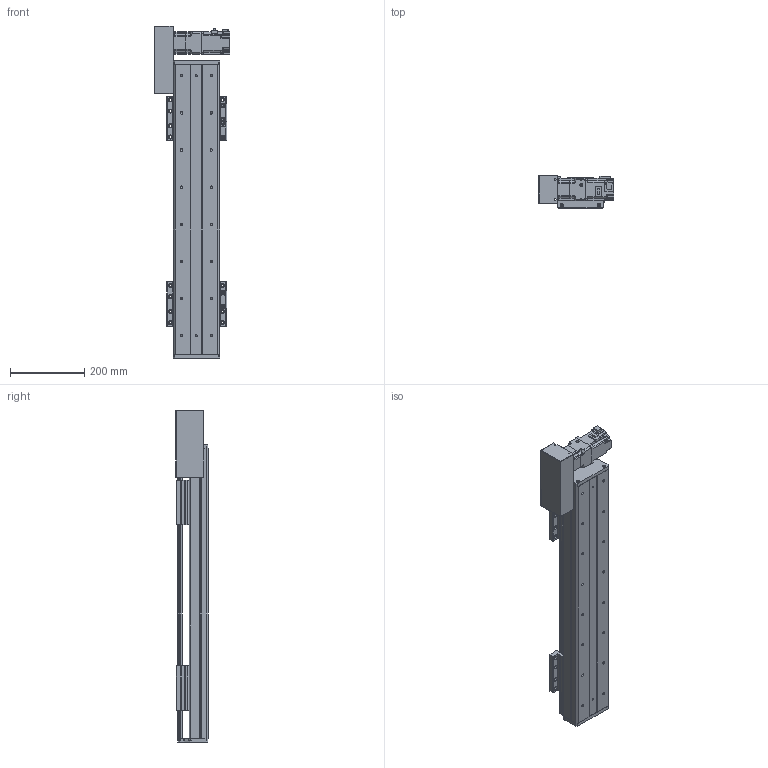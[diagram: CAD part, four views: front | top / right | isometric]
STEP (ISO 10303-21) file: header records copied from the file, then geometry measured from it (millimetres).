
FILE_DESCRIPTION(/* description */ (''),/* implementation_level */ '2;1');
FILE_NAME(/* name */ 'D:\(주)디에스알-FILESERVER\A-\X2\C124ACC4\X0\\A-개발\A-2017년\G-\X2\B85CBD07C678D615B3C4\X0\\B-3D\B-DSB\A-DSB125\A-L TYPE\DSB125-L2G-W0500-R.stp',/* time_stamp */ '2018-06-13T10:10:20+09:00',/* author */ ('PC'),/* organization */ (''),/* preprocessor_version */ 'ST-DEVELOPER v16.5',/* originating_system */ 'Autodesk Inventor 2017',/* authorisation */ '');
FILE_SCHEMA (('AUTOMOTIVE_DESIGN { 1 0 10303 214 3 1 1 }'));
Length unit declared in the file: millimetre
Products named in the file (12): DSB125-L-300ST; DSR125-BASE(S-TYPE); DSR125-REAR COVER-R01(170203); DSR125-REAR COVER-R01(170203)_1; DSR125-UP COVER-R01(170203); DSR125-TABLE(MSA15X); hg-kr23_; ab0601-p0401200402; 13-BELT COVER; DSR126-SENSOR DOG; pm-y65_step; SENSOR BRACKET(EE-SX674A)
Assembly tree (16 placements, depth 2):
  DSB125-L-300ST
    DSR125-BASE(S-TYPE)
    DSR125-REAR COVER-R01(170203)
    DSR125-REAR COVER-R01(170203)_1
    DSR125-UP COVER-R01(170203)
    DSR125-TABLE(MSA15X)  x2
    hg-kr23_
    ab0601-p0401200402
    13-BELT COVER
    DSR126-SENSOR DOG
    pm-y65_step  x3
    SENSOR BRACKET(EE-SX674A)  x3
Bounding box: 202.1 x 88 x 894 mm (x, y, z)
Volume: 3416428.7 mm3; surface area: 987765 mm2
Topology: 17 solids, 22 shells, 1653 faces, 4481 edges, 2958 vertices
Faces by surface type: plane 908, cylinder 627, cone 106, sphere 8, torus 4
Full cylindrical faces by diameter (mm): 2.459 x20, 3.242 x16, 3.5 x6, 4 x1, 4.134 x16, 4.2 x4, 4.3 x1, 4.5 x50, 4.917 x20, 5 x27, 5.3 x1, 5.5 x4, 5.6 x8, 5.8 x4, 5.9 x8, 6 x4, 6.6 x22, 6.647 x16, 7.5 x32, 8.5 x8, 8.7 x1, 11 x22, 14 x1, 16 x2, 17 x1, 20 x1, 47 x1, 50 x3
Entity records: 35190 total; most frequent: CARTESIAN_POINT 6475, DIRECTION 6092, ORIENTED_EDGE 5462, EDGE_CURVE 2736, AXIS2_PLACEMENT_3D 2234, VERTEX_POINT 1945, EDGE_LOOP 1657, LINE 1624
